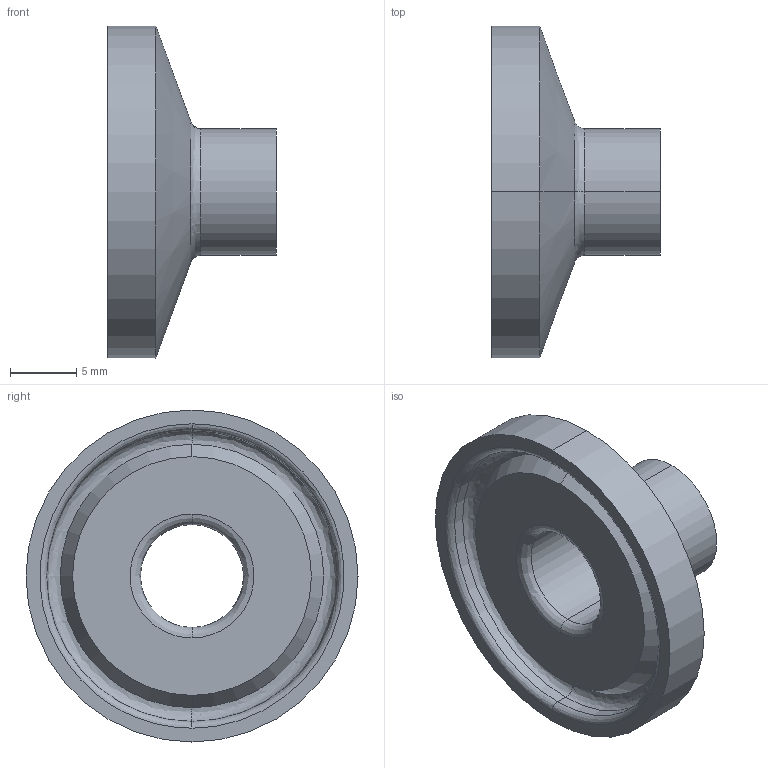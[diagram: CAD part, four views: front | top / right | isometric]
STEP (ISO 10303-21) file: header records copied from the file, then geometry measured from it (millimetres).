
FILE_DESCRIPTION (( 'STEP AP214' ), '1' );
FILE_NAME ('TEG2CS6L.375.STEP', '2016-05-22T11:56:35', ( 'eran' ), ( '' ), 'SwSTEP 2.0', 'SolidWorks 2016', '' );
FILE_SCHEMA (( 'AUTOMOTIVE_DESIGN' ));
Length unit declared in the file: millimetre
Products named in the file (1): TEG2CS6L.375
Bounding box: 12.7 x 24.99 x 24.99 mm (x, y, z)
Volume: 1946 mm3; surface area: 1815.7 mm2
Topology: 1 solids, 1 shells, 23 faces, 46 edges, 26 vertices
Faces by surface type: bspline 8, cylinder 8, cone 4, plane 3
Entity records: 724 total; most frequent: CARTESIAN_POINT 228, DIRECTION 104, ORIENTED_EDGE 92, EDGE_CURVE 46, AXIS2_PLACEMENT_3D 46, CIRCLE 30, VERTEX_POINT 26, EDGE_LOOP 26
